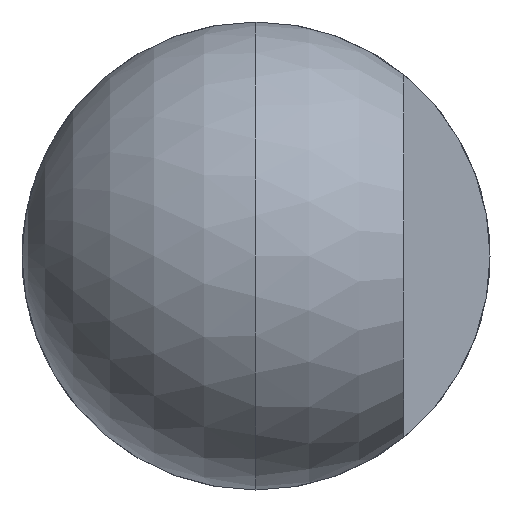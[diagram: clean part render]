
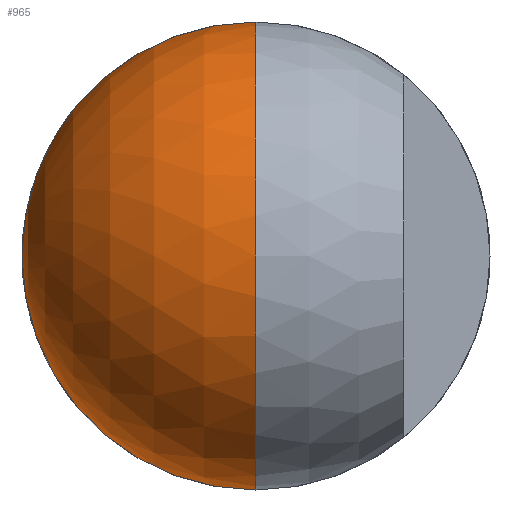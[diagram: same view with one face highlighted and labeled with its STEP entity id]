
A CAD part, front view. The second image highlights one B-rep face of the part: STEP entity #965.
In plain terms, the highlighted spherical face has radius 6.25 mm.
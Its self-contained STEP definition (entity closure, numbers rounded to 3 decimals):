
#35 = ORIENTED_EDGE ( 'NONE', *, *, #3062, .F. ) ;
#110 = DIRECTION ( 'NONE',  ( 0., -1., 0. ) ) ;
#291 = CARTESIAN_POINT ( 'NONE',  ( 0., 0., 78.75 ) ) ;
#606 = DIRECTION ( 'NONE',  ( -1., 0., 0. ) ) ;
#647 = CARTESIAN_POINT ( 'NONE',  ( 6.25, 0., 78.75 ) ) ;
#667 = DIRECTION ( 'NONE',  ( -1., 0., 0. ) ) ;
#838 = EDGE_LOOP ( 'NONE', ( #3109, #35, #907 ) ) ;
#872 = AXIS2_PLACEMENT_3D ( 'NONE', #291, #110, #1030 ) ;
#891 = CARTESIAN_POINT ( 'NONE',  ( 0., 0., 78.75 ) ) ;
#907 = ORIENTED_EDGE ( 'NONE', *, *, #2893, .T. ) ;
#965 = ADVANCED_FACE ( 'NONE', ( #1118 ), #2065, .T. ) ;
#1030 = DIRECTION ( 'NONE',  ( 0., 0., -1. ) ) ;
#1118 = FACE_OUTER_BOUND ( 'NONE', #838, .T. ) ;
#1380 = CIRCLE ( 'NONE', #2117, 6.25 ) ;
#1550 = EDGE_CURVE ( 'NONE', #2054, #2072, #2780, .T. ) ;
#1572 = AXIS2_PLACEMENT_3D ( 'NONE', #3088, #1594, #3042 ) ;
#1594 = DIRECTION ( 'NONE',  ( 0., 1., 0. ) ) ;
#1625 = CARTESIAN_POINT ( 'NONE',  ( 0., 0., 78.75 ) ) ;
#1804 = DIRECTION ( 'NONE',  ( 0., 0., -1. ) ) ;
#1877 = DIRECTION ( 'NONE',  ( 0., 1., 0. ) ) ;
#2054 = VERTEX_POINT ( 'NONE', #2061 ) ;
#2061 = CARTESIAN_POINT ( 'NONE',  ( -6.25, 0., 78.75 ) ) ;
#2065 = SPHERICAL_SURFACE ( 'NONE', #1572, 6.25 ) ;
#2072 = VERTEX_POINT ( 'NONE', #2543 ) ;
#2087 = VERTEX_POINT ( 'NONE', #647 ) ;
#2117 = AXIS2_PLACEMENT_3D ( 'NONE', #1625, #1804, #606 ) ;
#2425 = CIRCLE ( 'NONE', #872, 6.25 ) ;
#2543 = CARTESIAN_POINT ( 'NONE',  ( 0., 0., 85. ) ) ;
#2577 = AXIS2_PLACEMENT_3D ( 'NONE', #891, #1877, #667 ) ;
#2780 = CIRCLE ( 'NONE', #2577, 6.25 ) ;
#2893 = EDGE_CURVE ( 'NONE', #2087, #2072, #2425, .T. ) ;
#3042 = DIRECTION ( 'NONE',  ( 1., 0., 0. ) ) ;
#3062 = EDGE_CURVE ( 'NONE', #2087, #2054, #1380, .T. ) ;
#3088 = CARTESIAN_POINT ( 'NONE',  ( 0., 0., 78.75 ) ) ;
#3109 = ORIENTED_EDGE ( 'NONE', *, *, #1550, .F. ) ;
